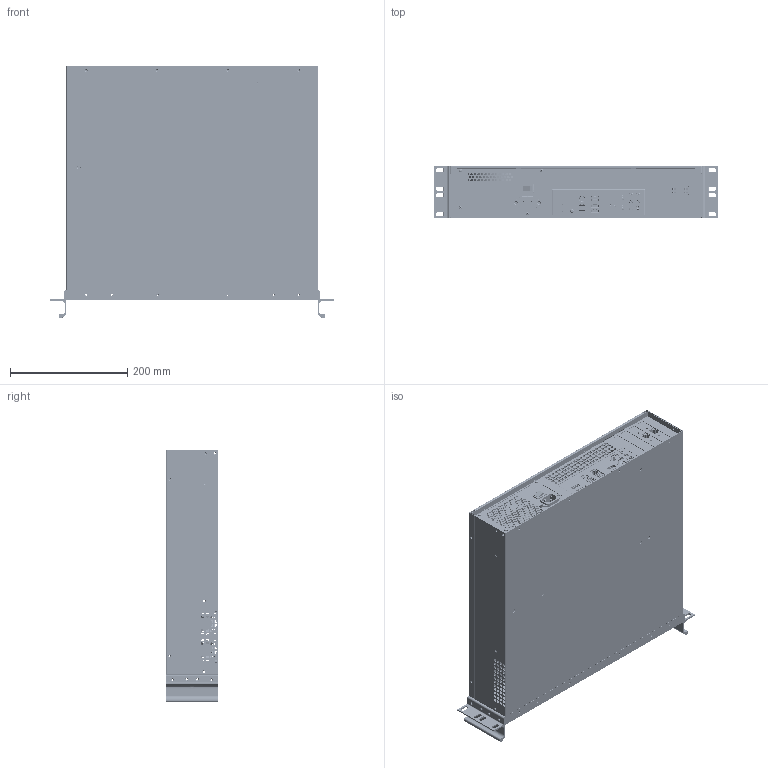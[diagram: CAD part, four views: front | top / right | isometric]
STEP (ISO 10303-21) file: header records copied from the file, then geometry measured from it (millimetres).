
FILE_DESCRIPTION (( 'STEP AP214' ), '1' );
FILE_NAME ('鼫謼歑 IS-R-150.STEP', '2024-09-22T09:50:17', ( '' ), ( '' ), 'SwSTEP 2.0', 'SolidWorks 2024', '' );
FILE_SCHEMA (( 'AUTOMOTIVE_DESIGN' ));
Length unit declared in the file: millimetre
Products named in the file (59): Панель задняя; Панель передняя; USB Type A contacts.step; JAF3331-51G3; POF ASM.STEP; Outer shell 01.step; 40x40x 20 cooler v4; PCIe Brakets_PCIE card IO panel lowprofil.step-1; IEC Plug.IGS; Панель USB; Inner Plastic.step; molex_0471510001.stp-1; Ryjgrf; кожух hdmi.stp-1; RJ45 v1 v2.step-1; Фланец; USB Type-A  & Type-C .step; Cover v1.0 - ATX Power Supply.IGS; ATX Power Supply v1.0.IGS; JAF3331-51G3.STEP; Сборка14^gigabyte b360n wifi; USB 3 (4).step; Casq.IGS; USB 3 (3).step; ATX Power Supply v1.0; molex_0471510001.stp-2; MSI-B550M-Mortar-WiFi-IO-Shield.step; PCIe Brakets_PCIE card IO panel lowprofil.step-1_gecnjq; PCIe_x4_LowProfile.step-1; MSI-B550M-Mortar-WiFi-IO-Shield; Type C inner.step; Box v1.0 - ATX Power Supply.IGS; JAF3331-51G3ports.STEP; MSI B550M Mortar WiFi I_O Shield.step; Grelha Prot Vent 120.IGS; pan head cross recess screw_iso_ISO 7045 - M3 x 6 - Z - 6N; eBom-FreeParts.step; Foam Backing.step; Back Pins.step; JFM38U1B-B3V9-4F.stp-1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
Assembly tree (77 placements, depth 6):
  сервер IS-R-150
    Панель задняя
    Панель передняя
    Платформа
    Крышка
    40x40x 20 cooler v4
    Панель USB
    Фланец  x2
    ATX Power Supply v1.0
      ATX Power Supply v1.0.IGS
        Box v1.0 - ATX Power Supply.IGS
        Cover v1.0 - ATX Power Supply.IGS
        Grelha Prot Vent 120.IGS
        IEC Plug.IGS
        Switch on-off.IGS
        Ventax 119x119x26.IGS
        Casq.IGS
    MSI-B550M-Mortar-WiFi-IO-Shield
      MSI-B550M-Mortar-WiFi-IO-Shield.step
        MSI B550M Mortar WiFi I_O Shield.step
          Shield.step
          Foam Backing.step
        eBom-FreeParts.step
      Сборка14^gigabyte b360n wifi
        molex_0471510001.stp-1
        molex_0471510001.stp-2
        кожух hdmi.stp-1
      UB11123-HFD1-4F.stp-1
      JFM38U1B-B3V9-4F.stp-1
      JAF3331-51G3
        JAF3331-51G3.STEP
          JAF3331-51G3-back part.STEP
          POF ASM.STEP
          JAF3331-51G3-all pins.STEP
          JAF3331-51G3-FRONT SUPPRT.STEP
          JAF3331-51G3ports.STEP
          JAF3331-51G3-outter shield.STEP
      USB Type-A  & Type-C
        USB Type-A  & Type-C .step
          USB Type A contacts.step
            USB 3 (3).step  x4
            USB 3 (4).step  x5
          Outer shell 01.step
          Outer shell 02.step
          Back Pins.step
          Type C inner.step
          Inner Plastic.step
      SMA Jack Bulkhead small nut  x2
      Ryjgrf
    pan head cross recess screw_iso_ISO 7045 - M3 x 6 - Z - 6N  x4
    AS1166 PCIex sata x4  x2
      PCIe_x4_LowProfile.step-1
      92000A114_Passivated 18-8 Stainless Steel Pan Head Phillips Screws.step-1
      92000A114_Passivated 18-8 Stainless Steel Pan Head Phillips Screws.step-2
      HeatSink.step-1
      PCIe Brakets_PCIE card IO panel lowprofil.step-1
      RJ45 v1 v2.step-1
    AS1166 PCIex sata x4_gecnjq  x2
      PCIe_x4_LowProfile.step-1
      92000A114_Passivated 18-8 Stainless Steel Pan Head Phillips Screws.step-1
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Bounding box: 485.72 x 88 x 431.35 mm (x, y, z)
Volume: 840503.3 mm3; surface area: 1518453.4 mm2
Topology: 380 solids, 417 shells, 29197 faces, 80619 edges, 52162 vertices
Faces by surface type: plane 18840, cylinder 5402, bspline 4226, cone 366, torus 315, sphere 48
Entity records: 1032256 total; most frequent: CARTESIAN_POINT 266935, ORIENTED_EDGE 144906, DIRECTION 108674, EDGE_CURVE 72474, LINE 49080, VECTOR 49080, VERTEX_POINT 46939, AXIS2_PLACEMENT_3D 29797
